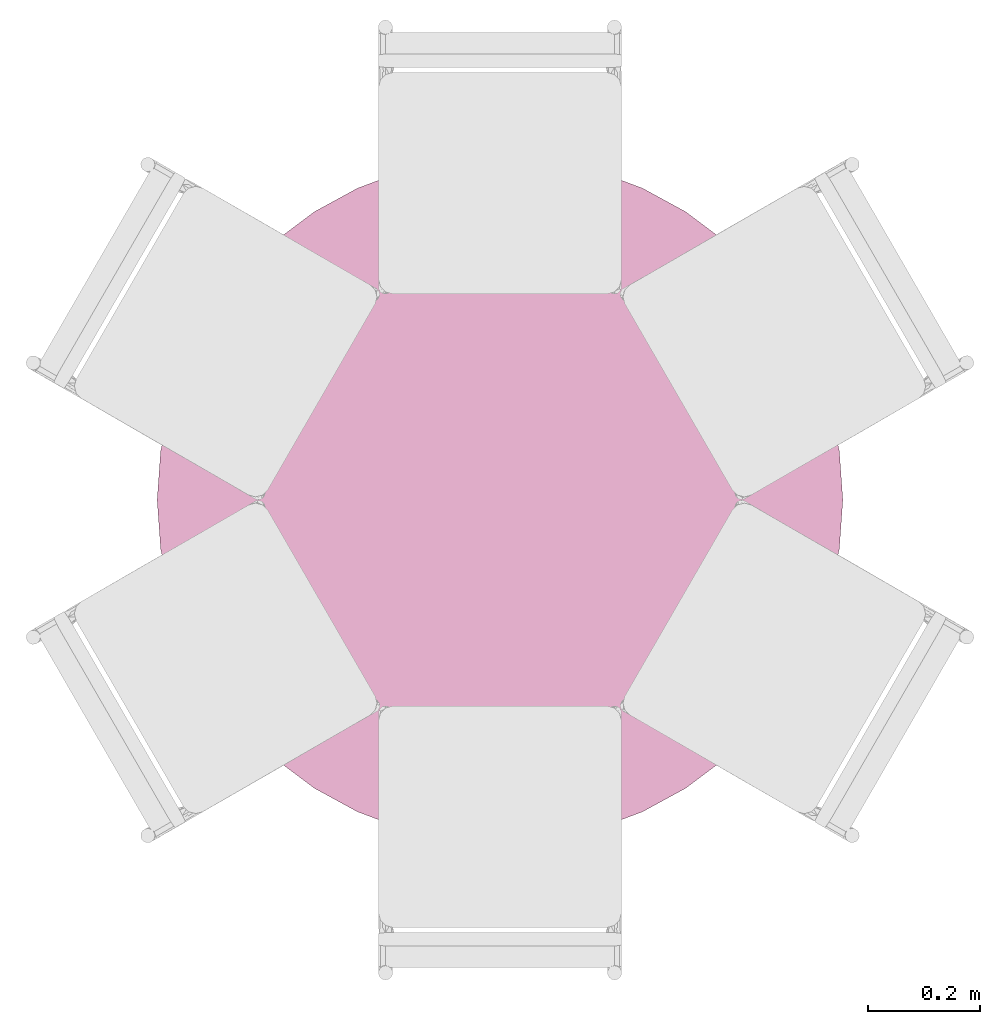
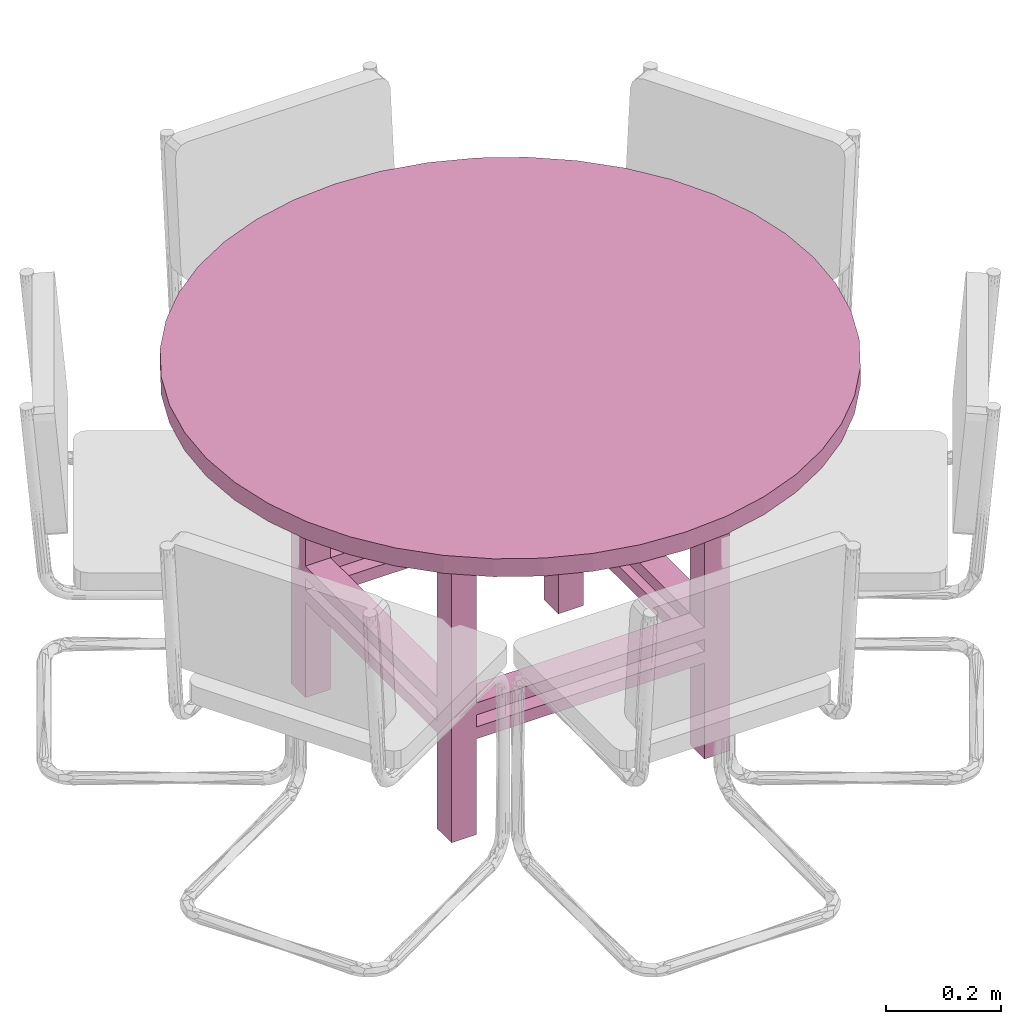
# One storey, part 5 of 8: 1 furnishing.
"""IFC2X3 building model written with IfcOpenShell, lengths in feet."""

from ifc_helpers import new_model, entity, si_unit, converted_unit, derived_unit, direction, frame, origin, place, context, subcontext, project, spatial, faceted_brep, source, transform, mapped, material, material_list, type_object, type_shapes, element, save


model = new_model("IFC2X3")

# Units and contexts
model_context = context("Model", 3, precision=0.0001, world=origin(), true_north=direction((6.12303176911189e-17, 1.0)))
body_context = subcontext(model_context, "Body", "Model", "MODEL_VIEW")
ifc_project = project(units=[converted_unit("LENGTHUNIT", "FOOT", entity("IfcRatioMeasure", 0.3048), si_unit("LENGTHUNIT", "METRE"), dimensions=[1, 0, 0, 0, 0, 0, 0]), converted_unit("AREAUNIT", "SQUARE FOOT", entity("IfcRatioMeasure", 0.09290304), si_unit("AREAUNIT", "SQUARE_METRE"), dimensions=[2, 0, 0, 0, 0, 0, 0]), converted_unit("VOLUMEUNIT", "CUBIC FOOT", entity("IfcRatioMeasure", 0.028316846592), si_unit("VOLUMEUNIT", "CUBIC_METRE"), dimensions=[3, 0, 0, 0, 0, 0, 0]), converted_unit("PLANEANGLEUNIT", "DEGREE", entity("IfcRatioMeasure", 0.0174532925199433), si_unit("PLANEANGLEUNIT", "RADIAN"), dimensions=[0, 0, 0, 0, 0, 0, 0]), si_unit("MASSUNIT", "GRAM", prefix="KILO"), derived_unit("MASSDENSITYUNIT", [(si_unit("MASSUNIT", "GRAM", prefix="KILO"), 1), (si_unit("LENGTHUNIT", "METRE"), -3)]), si_unit("TIMEUNIT", "SECOND"), si_unit("FREQUENCYUNIT", "HERTZ"), si_unit("THERMODYNAMICTEMPERATUREUNIT", "DEGREE_CELSIUS"), derived_unit("THERMALTRANSMITTANCEUNIT", [(si_unit("MASSUNIT", "GRAM", prefix="KILO"), 1), (si_unit("THERMODYNAMICTEMPERATUREUNIT", "KELVIN"), -1), (si_unit("TIMEUNIT", "SECOND"), -3)]), derived_unit("VOLUMETRICFLOWRATEUNIT", [(si_unit("LENGTHUNIT", "METRE"), 3), (si_unit("TIMEUNIT", "SECOND"), -1)]), si_unit("ELECTRICCURRENTUNIT", "AMPERE"), si_unit("ELECTRICVOLTAGEUNIT", "VOLT"), si_unit("POWERUNIT", "WATT"), si_unit("FORCEUNIT", "NEWTON"), si_unit("ILLUMINANCEUNIT", "LUX"), si_unit("LUMINOUSFLUXUNIT", "LUMEN"), si_unit("LUMINOUSINTENSITYUNIT", "CANDELA"), derived_unit("USERDEFINED", [(si_unit("MASSUNIT", "GRAM", prefix="KILO"), -1), (si_unit("LENGTHUNIT", "METRE"), -2), (si_unit("TIMEUNIT", "SECOND"), 3), (si_unit("LUMINOUSFLUXUNIT", "LUMEN"), 1)]), derived_unit("LINEARVELOCITYUNIT", [(si_unit("LENGTHUNIT", "METRE"), 1), (si_unit("TIMEUNIT", "SECOND"), -1)]), si_unit("PRESSUREUNIT", "PASCAL"), derived_unit("USERDEFINED", [(si_unit("LENGTHUNIT", "METRE"), -2), (si_unit("MASSUNIT", "GRAM", prefix="KILO"), 1), (si_unit("TIMEUNIT", "SECOND"), -2)])], contexts=[model_context])

# Site, building, storey
site_placement = place(None, origin())
site = spatial("IfcSite", under=ifc_project, at=site_placement, Name="表面", CompositionType="ELEMENT")
building_placement = place(site_placement, origin())
building = spatial("IfcBuilding", under=site, at=building_placement, CompositionType="ELEMENT")
storey_placement = place(building_placement, frame((0.0, 0.0, 20.0)))
storey = spatial("IfcBuildingStorey", under=building, at=storey_placement, Name="Sun Deck", CompositionType="ELEMENT", Elevation=19.9999999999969)

# Furnishing
ifc_material_1 = material(Name="Wood - Pine")
ifc_material_2 = material(Name="Laminate - Linen, Matte")
ifc_material_list_1 = material_list([ifc_material_1, ifc_material_2])
ifc_material_list_2 = material_list([ifc_material_1, ifc_material_2])
furniture_type = type_object("IfcFurnitureType", Name="36\" Diameter", material=ifc_material_list_2)
shared_shape = source(origin(), body_context, "Body", "Brep", [
    faceted_brep([(1.09016393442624, 0.143442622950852, 0.916666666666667), (1.09016393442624, -1.35655737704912, 0.916666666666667), (1.25683060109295, -1.35655737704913, 0.916666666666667), (1.25683060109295, 0.143442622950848, 0.916666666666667), (-0.40983606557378, 0.143442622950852, 0.833333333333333), (-0.40983606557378, -1.35655737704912, 0.833333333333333), (-0.576502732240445, -1.3565573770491, 0.833333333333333), (-0.576502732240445, 0.143442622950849, 0.833333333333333), (-0.409836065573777, 0.310109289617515, 0.833333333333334), (-0.409836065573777, 0.310109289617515, 0.75), (1.09016393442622, 0.310109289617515, 0.75), (1.09016393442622, 0.310109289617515, 0.833333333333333), (-0.576502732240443, 0.310109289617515, 2.125), (-0.409836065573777, 0.310109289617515, 2.125), (-0.409836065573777, 0.310109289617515, 0.916666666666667), (1.09016393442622, 0.310109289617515, 0.916666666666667), (1.09016393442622, 0.310109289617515, 2.125), (1.25683060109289, 0.310109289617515, 2.125), (1.25683060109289, 0.310109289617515, 0.0), (1.09016393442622, 0.310109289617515, 0.0), (1.09016393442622, 0.310109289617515, 0.666666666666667), (-0.409836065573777, 0.310109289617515, 0.666666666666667), (-0.409836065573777, 0.310109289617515, 0.0), (-0.576502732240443, 0.310109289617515, 0.0), (-0.576502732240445, -1.3565573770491, 0.75), (-0.576502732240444, 0.143442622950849, 0.75), (-0.576502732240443, 0.143442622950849, 2.125), (-0.576502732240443, 0.143442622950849, 0.0), (-0.576502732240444, 0.143442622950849, 0.666666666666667), (-0.576502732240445, -1.3565573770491, 0.666666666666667), (-0.576502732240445, -1.3565573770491, 0.0), (-0.57650273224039, -1.52322404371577, 0.0), (-0.57650273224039, -1.52322404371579, 2.125), (-0.57650273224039, -1.3565573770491, 2.125), (-0.576502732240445, -1.3565573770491, 0.916666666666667), (-0.576502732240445, 0.143442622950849, 0.916666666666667), (1.09016393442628, -1.52322404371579, 0.833333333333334), (1.09016393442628, -1.52322404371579, 0.75), (-0.409836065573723, -1.52322404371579, 0.75), (-0.409836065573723, -1.52322404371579, 0.833333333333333), (1.25683060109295, -1.52322404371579, 2.125), (1.09016393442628, -1.52322404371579, 2.125), (1.09016393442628, -1.52322404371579, 0.916666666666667), (-0.409836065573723, -1.52322404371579, 0.916666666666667), (-0.409836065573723, -1.52322404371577, 2.125), (-0.409836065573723, -1.52322404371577, 0.0), (-0.409836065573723, -1.52322404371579, 0.666666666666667), (1.09016393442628, -1.52322404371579, 0.666666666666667), (1.09016393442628, -1.52322404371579, 0.0), (1.25683060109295, -1.52322404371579, 0.0), (1.25683060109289, 0.143442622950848, 2.125), (1.25683060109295, -1.35655737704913, 2.125), (1.25683060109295, -1.35655737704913, 0.0), (1.25683060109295, -1.35655737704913, 0.666666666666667), (1.25683060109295, 0.143442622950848, 0.666666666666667), (1.25683060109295, 0.143442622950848, 0.0), (1.25683060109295, 0.143442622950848, 0.833333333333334), (1.25683060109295, 0.143442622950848, 0.75), (1.25683060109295, -1.35655737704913, 0.75), (1.25683060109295, -1.35655737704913, 0.833333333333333), (1.09016393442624, 0.143442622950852, 0.833333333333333), (1.09016393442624, -1.35655737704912, 0.833333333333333), (-0.40983606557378, -1.35655737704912, 0.916666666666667), (-0.40983606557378, 0.143442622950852, 0.916666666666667), (1.09016393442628, -1.35655737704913, 2.125), (-0.409836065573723, -1.3565573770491, 0.0), (-0.409836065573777, 0.143442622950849, 2.125), (1.09016393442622, 0.143442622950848, 2.125), (-0.409836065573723, -1.3565573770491, 2.125), (1.09016393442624, 0.143442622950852, 0.75), (1.09016393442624, -1.35655737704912, 0.75), (-0.40983606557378, 0.143442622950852, 0.666666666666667), (-0.40983606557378, -1.35655737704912, 0.666666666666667), (1.09016393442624, 0.143442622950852, 0.666666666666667), (1.09016393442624, -1.35655737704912, 0.666666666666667), (-0.40983606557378, -1.35655737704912, 0.75), (-0.40983606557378, 0.143442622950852, 0.75), (1.09016393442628, -1.35655737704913, 0.0), (1.09016393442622, 0.143442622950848, 0.0), (-0.409836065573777, 0.143442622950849, 0.0)], [[[0, 1, 2, 3]], [[4, 5, 6, 7]], [[8, 9, 10, 11], [12, 13, 14, 15, 16, 17, 18, 19, 20, 21, 22, 23]], [[6, 24, 25, 7], [26, 12, 23, 27, 28, 29, 30, 31, 32, 33, 34, 35]], [[36, 37, 38, 39], [40, 41, 42, 43, 44, 32, 31, 45, 46, 47, 48, 49]], [[18, 17, 50, 3, 2, 51, 40, 49, 52, 53, 54, 55], [56, 57, 58, 59]], [[1, 0, 60, 61]], [[62, 1, 61, 5]], [[63, 62, 5, 4]], [[0, 63, 4, 60]], [[41, 40, 51, 64]], [[45, 31, 30, 65]], [[66, 26, 35, 63]], [[13, 66, 63, 14]], [[67, 16, 15, 0]], [[50, 67, 0, 3]], [[64, 51, 2, 1]], [[41, 64, 1, 42]], [[68, 44, 43, 62]], [[33, 68, 62, 34]], [[69, 70, 58, 57]], [[71, 72, 29, 28]], [[70, 69, 73, 74]], [[75, 70, 74, 72]], [[76, 75, 72, 71]], [[69, 76, 71, 73]], [[72, 74, 47, 46]], [[73, 71, 21, 20]], [[74, 73, 54, 53]], [[70, 75, 38, 37]], [[75, 76, 25, 24]], [[76, 69, 10, 9]], [[6, 5, 75, 24]], [[65, 30, 29, 72]], [[5, 39, 38, 75]], [[45, 65, 72, 46]], [[36, 61, 70, 37]], [[77, 48, 47, 74]], [[61, 59, 58, 70]], [[52, 77, 74, 53]], [[56, 60, 69, 57]], [[78, 55, 54, 73]], [[60, 11, 10, 69]], [[19, 78, 73, 20]], [[8, 4, 76, 9]], [[79, 22, 21, 71]], [[4, 7, 25, 76]], [[27, 79, 71, 28]], [[22, 79, 27, 23]], [[48, 77, 52, 49]], [[19, 18, 55, 78]], [[16, 67, 50, 17]], [[44, 68, 33, 32]], [[13, 12, 26, 66]], [[5, 61, 36, 39]], [[60, 4, 8, 11]], [[61, 60, 56, 59]], [[1, 62, 43, 42]], [[62, 63, 35, 34]], [[63, 0, 15, 14]]], outer=[[True], [True], [False, True], [False, True], [False, True], [True, False], [True], [True], [True], [True], [True], [True], [True], [True], [True], [True], [True], [True], [True], [True], [True], [True], [True], [True], [True], [True], [True], [True], [True], [True], [True], [True], [True], [True], [True], [True], [True], [True], [True], [True], [True], [True], [True], [True], [True], [True], [True], [True], [True], [True], [True], [True], [True], [True], [True], [True], [True], [True], [True], [True]]),
    faceted_brep([(1.34016393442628, 0.393442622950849, 2.375), (-0.659836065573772, 0.393442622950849, 2.375), (-0.659836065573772, -1.6065573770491, 2.375), (1.34016393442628, -1.6065573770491, 2.375), (1.25683060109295, 0.310109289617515, 2.375), (1.25683060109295, -1.52322404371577, 2.375), (-0.576502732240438, -1.52322404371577, 2.375), (-0.576502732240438, 0.310109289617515, 2.375), (1.34016393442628, 0.393442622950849, 2.125), (1.34016393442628, -1.6065573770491, 2.125), (-0.659836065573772, -1.6065573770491, 2.125), (-0.659836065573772, 0.393442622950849, 2.125), (1.25683060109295, 0.310109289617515, 2.125), (-0.576502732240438, 0.310109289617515, 2.125), (-0.576502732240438, -1.52322404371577, 2.125), (1.25683060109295, -1.52322404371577, 2.125)], [[[0, 1, 2, 3], [4, 5, 6, 7]], [[8, 9, 10, 11], [12, 13, 14, 15]], [[1, 0, 8, 11]], [[2, 1, 11, 10]], [[3, 2, 10, 9]], [[0, 3, 9, 8]], [[5, 4, 12, 15]], [[6, 5, 15, 14]], [[7, 6, 14, 13]], [[4, 7, 13, 12]]]),
    faceted_brep([(2.25914988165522, -1.17002249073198, 2.37499999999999), (2.15942792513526, -1.43738740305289, 2.37499999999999), (2.02267100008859, -1.68783901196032, 2.37499999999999), (1.85166308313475, -1.91627884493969, 2.37499999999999), (1.6498854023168, -2.11805652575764, 2.37499999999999), (1.42144556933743, -2.28906444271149, 2.37499999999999), (1.17099396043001, -2.42582136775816, 2.375), (0.903629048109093, -2.52554332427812, 2.375), (0.624793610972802, -2.586200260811, 2.375), (0.340163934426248, -2.60655737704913, 2.375), (0.055534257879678, -2.586200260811, 2.375), (-0.223301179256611, -2.52554332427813, 2.375), (-0.490666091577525, -2.42582136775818, 2.375), (-0.741117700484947, -2.2890644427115, 2.375), (-0.969557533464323, -2.11805652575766, 2.375), (-1.17133521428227, -1.91627884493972, 2.375), (-1.34234313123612, -1.68783901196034, 2.375), (-1.47910005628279, -1.43738740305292, 2.375), (-1.57882201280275, -1.17002249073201, 2.375), (-1.63947894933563, -0.89118705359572, 2.375), (-1.65983606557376, -0.606557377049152, 2.375), (-1.63947894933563, -0.32192770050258, 2.375), (-1.57882201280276, -0.0430922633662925, 2.375), (-1.47910005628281, 0.224272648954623, 2.375), (-1.34234313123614, 0.474724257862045, 2.375), (-1.17133521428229, 0.703164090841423, 2.375), (-0.969557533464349, 0.90494177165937, 2.375), (-0.741117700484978, 1.07594968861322, 2.375), (-0.490666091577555, 1.21270661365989, 2.375), (-0.223301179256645, 1.31242857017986, 2.375), (0.0555342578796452, 1.37308550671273, 2.375), (0.340163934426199, 1.39344262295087, 2.375), (0.62479361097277, 1.37308550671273, 2.375), (0.903629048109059, 1.31242857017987, 2.375), (1.17099396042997, 1.21270661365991, 2.375), (1.4214455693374, 1.07594968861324, 2.37499999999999), (1.64988540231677, 0.904941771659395, 2.37499999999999), (1.85166308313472, 0.70316409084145, 2.37499999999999), (2.02267100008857, 0.474724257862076, 2.37499999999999), (2.15942792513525, 0.224272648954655, 2.37499999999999), (2.25914988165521, -0.0430922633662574, 2.37499999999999), (2.31980681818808, -0.321927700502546, 2.37499999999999), (2.34016393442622, -0.606557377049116, 2.37499999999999), (2.31980681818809, -0.891187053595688, 2.37499999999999), (2.31980681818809, -0.891187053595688, 2.49999999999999), (2.34016393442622, -0.606557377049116, 2.49999999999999), (2.31980681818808, -0.321927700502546, 2.49999999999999), (2.25914988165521, -0.0430922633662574, 2.49999999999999), (2.15942792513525, 0.224272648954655, 2.49999999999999), (2.02267100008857, 0.474724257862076, 2.49999999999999), (1.85166308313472, 0.70316409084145, 2.49999999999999), (1.64988540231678, 0.904941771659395, 2.49999999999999), (1.4214455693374, 1.07594968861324, 2.49999999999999), (1.17099396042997, 1.21270661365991, 2.5), (0.90362904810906, 1.31242857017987, 2.5), (0.62479361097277, 1.37308550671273, 2.5), (0.340163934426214, 1.39344262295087, 2.5), (0.0555342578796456, 1.37308550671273, 2.5), (-0.223301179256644, 1.31242857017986, 2.5), (-0.490666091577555, 1.21270661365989, 2.5), (-0.741117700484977, 1.07594968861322, 2.5), (-0.969557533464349, 0.90494177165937, 2.5), (-1.17133521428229, 0.703164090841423, 2.5), (-1.34234313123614, 0.474724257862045, 2.5), (-1.47910005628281, 0.224272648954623, 2.5), (-1.57882201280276, -0.0430922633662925, 2.5), (-1.63947894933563, -0.32192770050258, 2.5), (-1.65983606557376, -0.606557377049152, 2.5), (-1.63947894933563, -0.89118705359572, 2.5), (-1.57882201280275, -1.17002249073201, 2.5), (-1.47910005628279, -1.43738740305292, 2.5), (-1.34234313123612, -1.68783901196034, 2.5), (-1.17133521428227, -1.91627884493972, 2.5), (-0.969557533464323, -2.11805652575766, 2.5), (-0.741117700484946, -2.2890644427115, 2.5), (-0.490666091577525, -2.42582136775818, 2.5), (-0.223301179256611, -2.52554332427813, 2.5), (0.0555342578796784, -2.586200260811, 2.5), (0.340163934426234, -2.60655737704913, 2.5), (0.624793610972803, -2.586200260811, 2.5), (0.903629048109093, -2.52554332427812, 2.5), (1.17099396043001, -2.42582136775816, 2.5), (1.42144556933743, -2.28906444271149, 2.49999999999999), (1.6498854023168, -2.11805652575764, 2.49999999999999), (1.85166308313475, -1.91627884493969, 2.49999999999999), (2.02267100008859, -1.68783901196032, 2.49999999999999), (2.15942792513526, -1.43738740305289, 2.49999999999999), (2.25914988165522, -1.17002249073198, 2.49999999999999)], [[[0, 1, 2, 3, 4, 5, 6, 7, 8, 9, 10, 11, 12, 13, 14, 15, 16, 17, 18, 19, 20, 21, 22, 23, 24, 25, 26, 27, 28, 29, 30, 31, 32, 33, 34, 35, 36, 37, 38, 39, 40, 41, 42, 43]], [[44, 45, 46, 47, 48, 49, 50, 51, 52, 53, 54, 55, 56, 57, 58, 59, 60, 61, 62, 63, 64, 65, 66, 67, 68, 69, 70, 71, 72, 73, 74, 75, 76, 77, 78, 79, 80, 81, 82, 83, 84, 85, 86, 87]], [[12, 75, 74, 13]], [[10, 77, 76, 11]], [[75, 12, 11, 76]], [[13, 74, 73, 14]], [[17, 70, 69, 18]], [[18, 69, 68, 19]], [[15, 72, 71, 16]], [[16, 71, 70, 17]], [[72, 15, 14, 73]], [[19, 68, 67, 20]], [[77, 10, 9, 78]], [[23, 64, 63, 24]], [[21, 66, 65, 22]], [[64, 23, 22, 65]], [[24, 63, 62, 25]], [[28, 59, 58, 29]], [[29, 58, 57, 30]], [[26, 61, 60, 27]], [[27, 60, 59, 28]], [[61, 26, 25, 62]], [[30, 57, 56, 31]], [[66, 21, 20, 67]], [[34, 53, 52, 35]], [[33, 54, 53, 34]], [[35, 52, 51, 36]], [[39, 48, 47, 40]], [[40, 47, 46, 41]], [[37, 50, 49, 38]], [[38, 49, 48, 39]], [[50, 37, 36, 51]], [[41, 46, 45, 42]], [[32, 55, 54, 33]], [[32, 31, 56, 55]], [[1, 86, 85, 2]], [[43, 44, 87, 0]], [[86, 1, 0, 87]], [[2, 85, 84, 3]], [[6, 81, 80, 7]], [[7, 80, 79, 8]], [[4, 83, 82, 5]], [[5, 82, 81, 6]], [[83, 4, 3, 84]], [[8, 79, 78, 9]], [[44, 43, 42, 45]]]),
])
type_shapes(furniture_type, [shared_shape])
furnishing_placement = place(storey_placement, frame((-24.7084103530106, -3.46104892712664, 0.0)))
element("IfcFurnishingElement", 1, at=furnishing_placement, inside=storey, type_object=furniture_type, material=ifc_material_list_1, Name="Table-Dining Round w Chairs:36\" Diameter", ObjectType="36\" Diameter", context=body_context, shape_type="MappedRepresentation", body=[
    mapped(shared_shape, transform((0.0, 0.0, 0.0), scale=1.0)),
])

save(model, "model.ifc")
